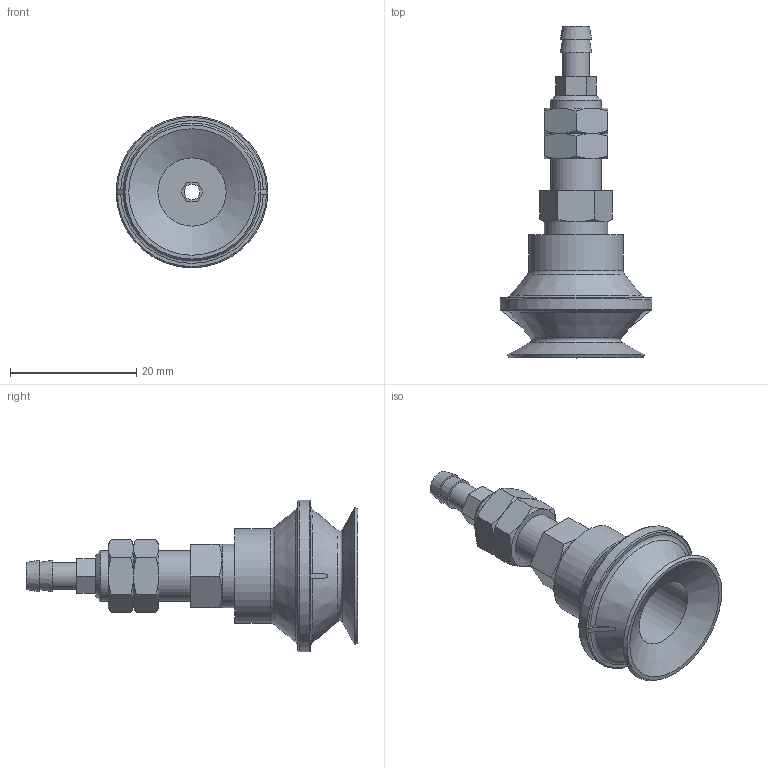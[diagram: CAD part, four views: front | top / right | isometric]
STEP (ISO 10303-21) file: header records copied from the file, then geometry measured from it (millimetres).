
FILE_DESCRIPTION(('STEP AP203'),'1');
FILE_NAME('.stp','2025-04-01T05:48:45',(' '),(' '),'Spatial InterOp 3D',' ',' ');
FILE_SCHEMA(('CONFIG_CONTROL_DESIGN'));
Length unit declared in the file: millimetre
Products named in the file (5): BBPBTK-20-※; Adapter20-T; NUT-20PB; PBTK-20; BPBG-20-※
Assembly tree (5 placements, depth 2):
  BBPBTK-20-※
    Adapter20-T
    NUT-20PB  x2
    PBTK-20
    BPBG-20-※
Bounding box: 24 x 52.5 x 24 mm (x, y, z)
Volume: 5144.2 mm3; surface area: 4925.2 mm2
Topology: 5 solids, 5 shells, 126 faces, 271 edges, 165 vertices
Faces by surface type: plane 56, cone 47, cylinder 14, torus 9
Full cylindrical faces by diameter (mm): 2.5 x1, 3 x1, 4.134 x1, 4.26 x1, 4.6 x1, 5 x1, 6.647 x2, 8 x1, 10 x1, 10.8 x1, 11 x1, 15 x1, 24 x1
Entity records: 3050 total; most frequent: CARTESIAN_POINT 741, DIRECTION 440, ORIENTED_EDGE 360, AXIS2_PLACEMENT_3D 187, EDGE_CURVE 180, EDGE_LOOP 154, VERTEX_POINT 128, FACE_OUTER_BOUND 123
